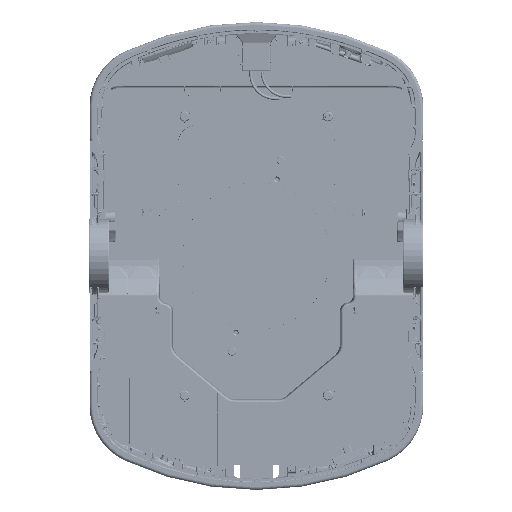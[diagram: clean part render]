
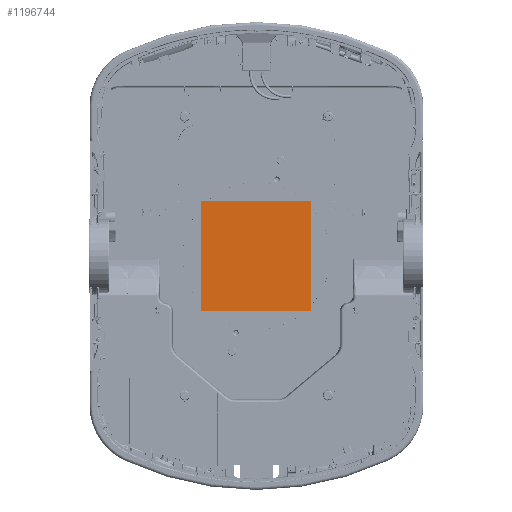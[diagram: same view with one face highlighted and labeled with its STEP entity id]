
A CAD part, front view. The second image highlights one B-rep face of the part: STEP entity #1196744.
In plain terms, the highlighted planar face has unit normal (0, -1, 0).
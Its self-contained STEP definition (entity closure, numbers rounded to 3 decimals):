
#1196348=DIRECTION('',(-1.,0.,0.));
#1196349=VECTOR('',#1196348,270.);
#1196350=CARTESIAN_POINT('',(135.,69.338,134.979));
#1196351=LINE('',#1196350,#1196349);
#1196352=DIRECTION('',(0.,0.,1.));
#1196353=VECTOR('',#1196352,270.);
#1196354=CARTESIAN_POINT('',(135.,69.338,-135.021));
#1196355=LINE('',#1196354,#1196353);
#1196356=DIRECTION('',(1.,0.,0.));
#1196357=VECTOR('',#1196356,270.);
#1196358=CARTESIAN_POINT('',(-135.,69.338,-135.021));
#1196359=LINE('',#1196358,#1196357);
#1196360=DIRECTION('',(0.,0.,-1.));
#1196361=VECTOR('',#1196360,270.);
#1196362=CARTESIAN_POINT('',(-135.,69.338,134.979));
#1196363=LINE('',#1196362,#1196361);
#1196388=CARTESIAN_POINT('',(135.,69.338,134.979));
#1196389=CARTESIAN_POINT('',(-135.,69.338,134.979));
#1196390=VERTEX_POINT('',#1196388);
#1196391=VERTEX_POINT('',#1196389);
#1196392=CARTESIAN_POINT('',(-135.,69.338,-135.021));
#1196393=VERTEX_POINT('',#1196392);
#1196394=CARTESIAN_POINT('',(135.,69.338,-135.021));
#1196395=VERTEX_POINT('',#1196394);
#1196731=CARTESIAN_POINT('',(0.,69.338,
-0.021));
#1196732=DIRECTION('',(0.,-1.,0.));
#1196733=DIRECTION('',(0.,0.,-1.));
#1196734=AXIS2_PLACEMENT_3D('',#1196731,#1196732,#1196733);
#1196735=PLANE('',#1196734);
#1196736=ORIENTED_EDGE('',*,*,#1196514,.F.);
#1196738=ORIENTED_EDGE('',*,*,#1196737,.F.);
#1196740=ORIENTED_EDGE('',*,*,#1196739,.F.);
#1196741=ORIENTED_EDGE('',*,*,#1196723,.F.);
#1196742=EDGE_LOOP('',(#1196736,#1196738,#1196740,#1196741));
#1196743=FACE_OUTER_BOUND('',#1196742,.F.);
#1196744=ADVANCED_FACE('',(#1196743),#1196735,.T.);
#1196514=EDGE_CURVE('',#1196390,#1196391,#1196351,.T.);
#1196723=EDGE_CURVE('',#1196391,#1196393,#1196363,.T.);
#1196737=EDGE_CURVE('',#1196395,#1196390,#1196355,.T.);
#1196739=EDGE_CURVE('',#1196393,#1196395,#1196359,.T.);
